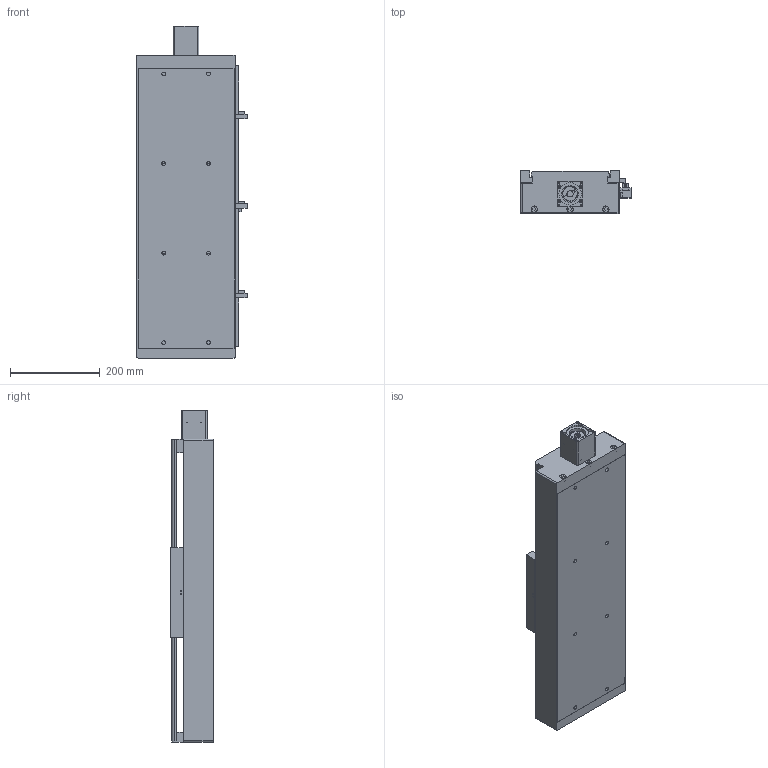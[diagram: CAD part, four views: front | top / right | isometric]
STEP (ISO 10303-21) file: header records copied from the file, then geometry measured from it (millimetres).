
FILE_DESCRIPTION((''),'2;1');
FILE_NAME('E:\libraries\UIA actuator library 2016\standard actuator\UIA220R20NDC\UIA220R20NDC ball screw 25\UIA220R20NDC-_ _ _-R25_ _ stp file, 01May16\UIA220R20NDC-400-R25_ _-M60-P13-C10-S.stp','2016-04-29T17:24:02',('h029'),(''),'Autodesk Inventor 11','Autodesk Inventor 11','');
FILE_SCHEMA(('AUTOMOTIVE_DESIGN { 1 0 10303 214 1 1 1 1 }'));
Length unit declared in the file: millimetre
Products named in the file (10): UIA220R20NDC-400-R25_ _; UIA220R20NDC-body; 41-100 0010 CARRIAGE; sensor rail; Sensor Switch; motor mount M60; SOH-32C; SOH-32C-3; SOH-32C-1; SOH-32C-2
Assembly tree (9 placements, depth 3):
  UIA220R20NDC-400-R25_ _
    UIA220R20NDC-body
    41-100 0010 CARRIAGE
    sensor rail
    Sensor Switch
    motor mount M60
    SOH-32C
      SOH-32C-3
      SOH-32C-1
      SOH-32C-2
Bounding box: 246.5 x 96 x 741 mm (x, y, z)
Volume: 4857635.2 mm3; surface area: 1073795.2 mm2
Topology: 8 solids, 8 shells, 515 faces, 1377 edges, 905 vertices
Faces by surface type: plane 342, bspline 121, cylinder 50, cone 2
Full cylindrical faces by diameter (mm): 3.242 x2, 4.5 x2, 7 x4, 7.5 x2, 13.8 x3, 14 x6, 17 x1, 32 x3, 37 x1, 50.3 x1, 50.5 x1
Entity records: 16846 total; most frequent: CARTESIAN_POINT 4753, ORIENTED_EDGE 2352, DIRECTION 2305, EDGE_CURVE 1176, VECTOR 853, LINE 853, VERTEX_POINT 831, EDGE_LOOP 745
